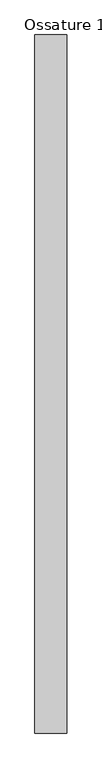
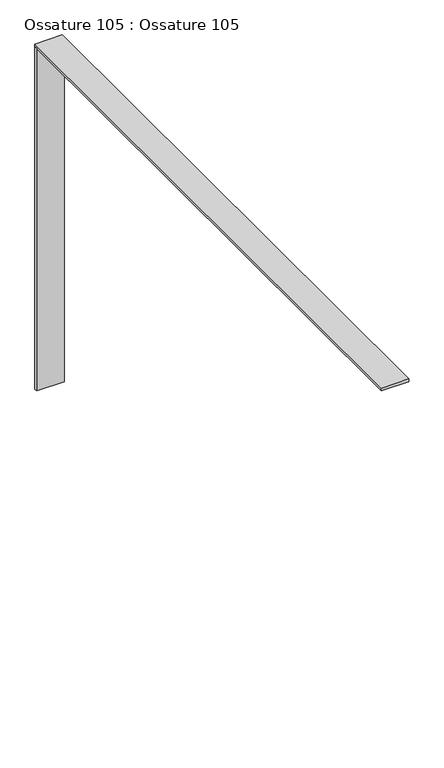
"""IFC4 building model written with IfcOpenShell, lengths in millimetres: beam geometry, Ossature 105 : Ossature 105."""

from ifc_helpers import new_model, si_unit, frame, origin, place, context, project, spatial, polyline, outline, extrude, source, transform, mapped, element, save


def ossature_105_ossature_105_d6a6a67b(model_context):
    return source(origin(), model_context, "Body", "SweptSolid", [
        extrude(outline(polyline([(11879.2466393, 2182.0685723), (11977.2466393, 2182.0685723), (11977.2466393, 2172.0685723), (11879.2466393, 2172.0685723), (11879.2466393, 2182.0685723)])), frame((0.0, 0.0, 5700.0), z_axis=(0.0, 0.0, 1.0), x_axis=(1.0, 0.0, 0.0)), (0.0, 0.0, 1.0), 1290.0),
        extrude(outline(polyline([(11879.2466393, 44.024191), (11879.2466393, 2182.0685723), (11977.2466393, 2182.0685723), (11977.2466393, 44.024191), (11879.2466393, 44.024191)])), frame((0.0, 0.0, 6990.0), z_axis=(0.0, 0.0, 1.0), x_axis=(1.0, 0.0, 0.0)), (0.0, 0.0, 1.0), 10.0),
    ])


if __name__ == "__main__":
    model = new_model("IFC4")
    model_context = context("Model", 3, world=origin())
    ifc_project = project(units=[si_unit("LENGTHUNIT", "METRE", prefix="MILLI")], contexts=[model_context])
    site = spatial("IfcSite", under=ifc_project)
    building = spatial("IfcBuilding", under=site)
    placement = place(None, origin())
    ossature_105_ossature_105_shape = ossature_105_ossature_105_d6a6a67b(model_context)
    element("IfcBeam", 1, ObjectType="Ossature 105 : Ossature 105", at=placement, inside=building, context=model_context, shape_type="MappedRepresentation", body=[
        mapped(ossature_105_ossature_105_shape, transform((0.0, 0.0, 0.0), x_axis=(1.0, 0.0, 0.0), y_axis=(0.0, 1.0, 0.0), z_axis=(0.0, 0.0, 1.0))),
    ])
    save(model, "model.ifc")
